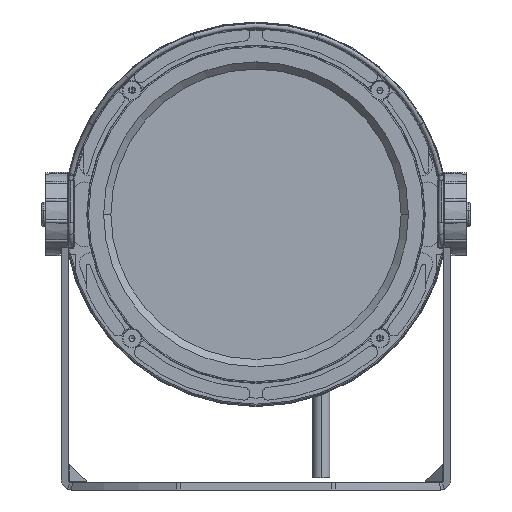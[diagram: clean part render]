
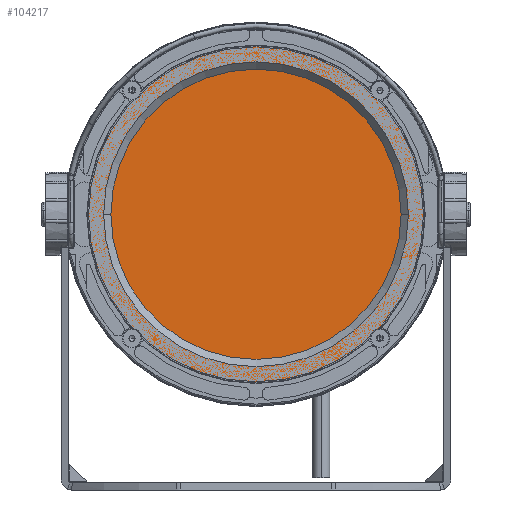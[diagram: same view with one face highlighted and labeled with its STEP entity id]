
A CAD part, left-side view. The second image highlights one B-rep face of the part: STEP entity #104217.
In plain terms, the highlighted planar face has unit normal (-1, 0, 0) as drawn and (0, 0, -1) by its records, which use the part's own axes.
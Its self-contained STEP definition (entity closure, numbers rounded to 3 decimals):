
#104170=CARTESIAN_POINT('',(0.,0.,0.));
#104171=DIRECTION('',(0.,0.,1.));
#104172=DIRECTION('',(1.,0.,0.));
#104173=AXIS2_PLACEMENT_3D('',#104170,#104171,#104172);
#104175=CARTESIAN_POINT('',(0.,0.,0.));
#104176=DIRECTION('',(0.,0.,1.));
#104177=DIRECTION('',(-1.,0.,0.));
#104178=AXIS2_PLACEMENT_3D('',#104175,#104176,#104177);
#104198=CARTESIAN_POINT('',(69.25,0.,0.));
#104199=CARTESIAN_POINT('',(-69.25,0.,0.));
#104200=VERTEX_POINT('',#104198);
#104201=VERTEX_POINT('',#104199);
#104206=CARTESIAN_POINT('',(0.,0.,0.));
#104207=DIRECTION('',(0.,0.,1.));
#104208=DIRECTION('',(1.,0.,0.));
#104209=AXIS2_PLACEMENT_3D('',#104206,#104207,#104208);
#104210=PLANE('',#104209);
#104212=ORIENTED_EDGE('',*,*,#104211,.T.);
#104214=ORIENTED_EDGE('',*,*,#104213,.T.);
#104215=EDGE_LOOP('',(#104212,#104214));
#104216=FACE_OUTER_BOUND('',#104215,.F.);
#104217=ADVANCED_FACE('',(#104216),#104210,.F.);
#104174=CIRCLE('',#104173,69.25);
#104179=CIRCLE('',#104178,69.25);
#104211=EDGE_CURVE('',#104200,#104201,#104174,.T.);
#104213=EDGE_CURVE('',#104201,#104200,#104179,.T.);
